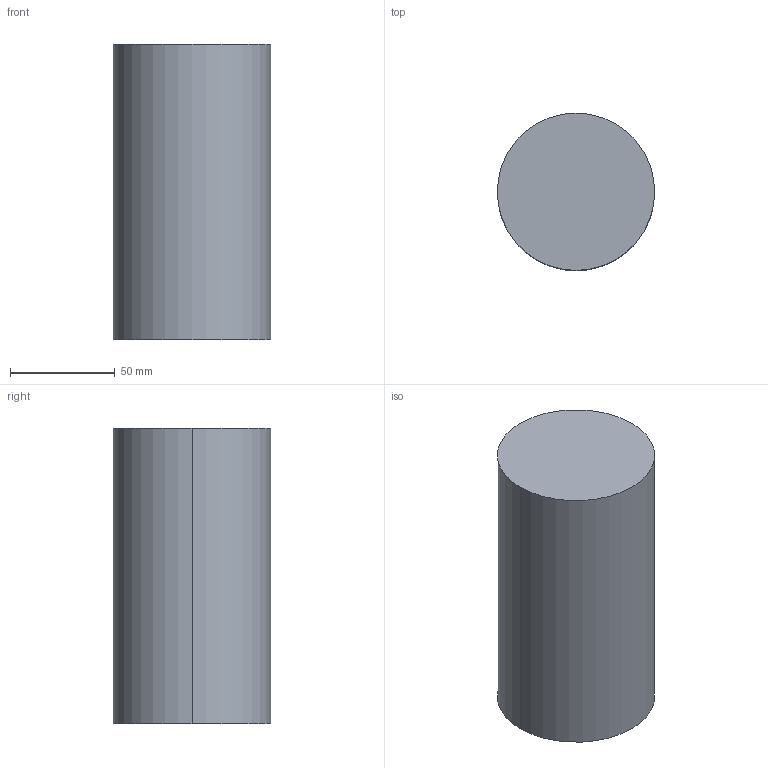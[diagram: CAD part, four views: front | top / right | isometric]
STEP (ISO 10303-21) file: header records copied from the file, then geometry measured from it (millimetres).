
FILE_DESCRIPTION (( 'STEP AP203' ), '1' );
FILE_NAME ('BATTERY-LI-4S-18AH-R1.STEP', '2017-01-04T17:42:26', ( '' ), ( '' ), 'SwSTEP 2.0', 'SolidWorks 2014', '' );
FILE_SCHEMA (( 'CONFIG_CONTROL_DESIGN' ));
Length unit declared in the file: millimetre
Products named in the file (1): BATTERY-LI-4S-18AH-R1
Bounding box: 75 x 75 x 141 mm (x, y, z)
Volume: 622918.9 mm3; surface area: 42058.1 mm2
Topology: 1 solids, 1 shells, 4 faces, 6 edges, 4 vertices
Faces by surface type: cylinder 2, plane 2
Entity records: 171 total; most frequent: DIRECTION 20, CARTESIAN_POINT 15, ORIENTED_EDGE 12, AXIS2_PLACEMENT_3D 9, PERSON_AND_ORGANIZATION 8, EDGE_CURVE 6, COORDINATED_UNIVERSAL_TIME_OFFSET 5, LOCAL_TIME 5
